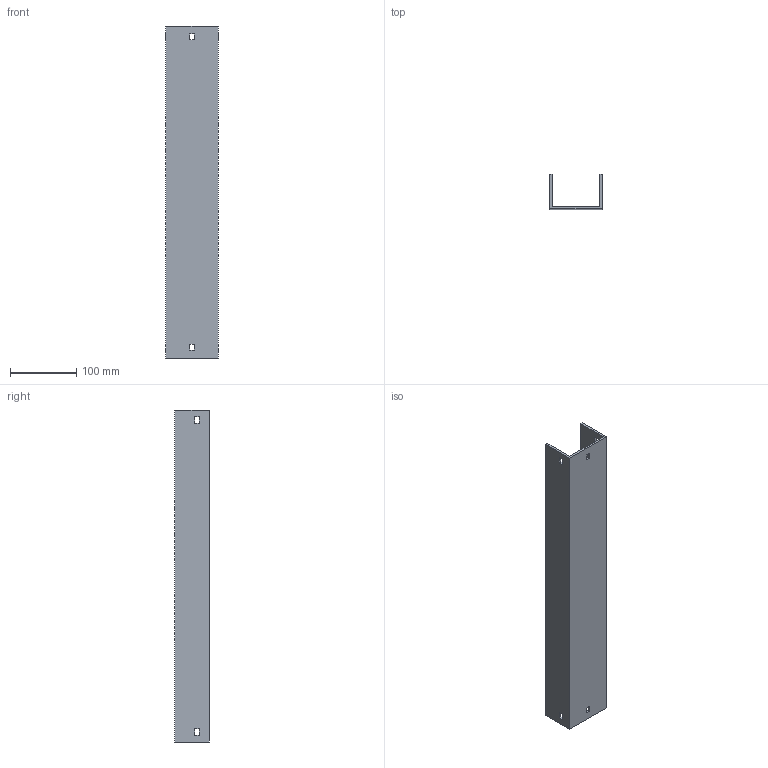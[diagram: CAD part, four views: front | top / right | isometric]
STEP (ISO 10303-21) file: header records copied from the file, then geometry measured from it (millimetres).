
FILE_DESCRIPTION (( 'STEP AP214' ), '1' );
FILE_NAME ('03F7B075.step', '2025-02-21T13:24:34', ( '' ), ( '' ), 'SwSTEP 2.0', 'SolidWorks 2023', '' );
FILE_SCHEMA (( 'AUTOMOTIVE_DESIGN' ));
Length unit declared in the file: millimetre
Products named in the file (1): 03F7B075
Bounding box: 79 x 52 x 500 mm (x, y, z)
Volume: 306610.5 mm3; surface area: 180631 mm2
Topology: 1 solids, 1 shells, 34 faces, 96 edges, 64 vertices
Faces by surface type: plane 34
Entity records: 1127 total; most frequent: CARTESIAN_POINT 195, ORIENTED_EDGE 192, DIRECTION 166, VECTOR 96, EDGE_CURVE 96, LINE 96, VERTEX_POINT 64, EDGE_LOOP 46
